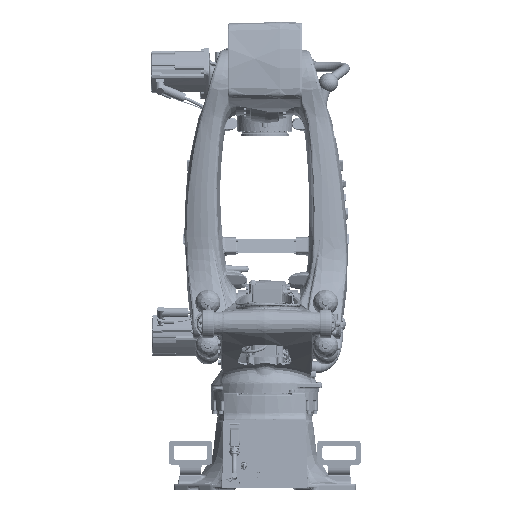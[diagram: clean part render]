
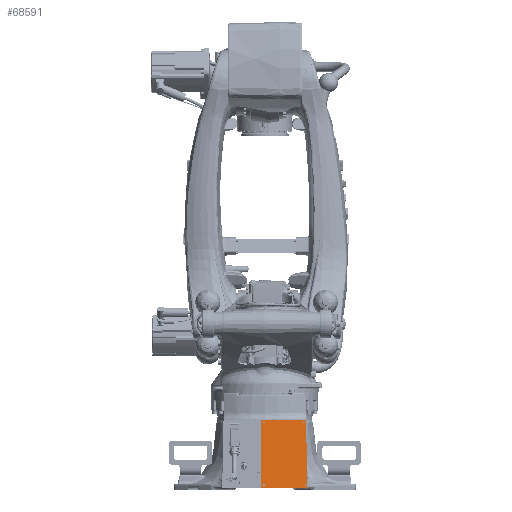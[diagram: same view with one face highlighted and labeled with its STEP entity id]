
A CAD part, left-side view. The second image highlights one B-rep face of the part: STEP entity #68591.
In plain terms, the highlighted planar face has unit normal (-0.996, 0, 0.087).
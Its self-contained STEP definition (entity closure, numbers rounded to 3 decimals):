
#52702=PLANE('',#300670);
#58543=FACE_BOUND('',#100527,.T.);
#58544=FACE_BOUND('',#100528,.T.);
#58545=FACE_BOUND('',#100529,.T.);
#58546=FACE_BOUND('',#100530,.T.);
#58547=FACE_BOUND('',#100531,.T.);
#68591=ADVANCED_FACE('',(#58543,#58544,#58545,#58546,#58547),#52702,.F.);
#100527=EDGE_LOOP('',(#155766));
#100528=EDGE_LOOP('',(#155767));
#100529=EDGE_LOOP('',(#155768));
#100530=EDGE_LOOP('',(#155769));
#100531=EDGE_LOOP('',(#155770,#155771,#155772,#155773,#155774,#155775,#155776,
#155777));
#155766=ORIENTED_EDGE('',*,*,#234185,.F.);
#155767=ORIENTED_EDGE('',*,*,#234186,.F.);
#155768=ORIENTED_EDGE('',*,*,#234187,.F.);
#155769=ORIENTED_EDGE('',*,*,#234188,.F.);
#155770=ORIENTED_EDGE('',*,*,#234166,.F.);
#155771=ORIENTED_EDGE('',*,*,#234163,.F.);
#155772=ORIENTED_EDGE('',*,*,#234184,.F.);
#155773=ORIENTED_EDGE('',*,*,#234181,.F.);
#155774=ORIENTED_EDGE('',*,*,#234178,.F.);
#155775=ORIENTED_EDGE('',*,*,#234175,.F.);
#155776=ORIENTED_EDGE('',*,*,#234172,.F.);
#155777=ORIENTED_EDGE('',*,*,#234169,.F.);
#205921=VERTEX_POINT('',#595355);
#205922=VERTEX_POINT('',#595357);
#205924=VERTEX_POINT('',#595363);
#205926=VERTEX_POINT('',#595369);
#205928=VERTEX_POINT('',#595375);
#205930=VERTEX_POINT('',#595381);
#205932=VERTEX_POINT('',#595387);
#205934=VERTEX_POINT('',#595393);
#205935=VERTEX_POINT('',#595400);
#205936=VERTEX_POINT('',#595402);
#205937=VERTEX_POINT('',#595404);
#205938=VERTEX_POINT('',#595406);
#234163=EDGE_CURVE('',#205921,#205922,#276479,.T.);
#234166=EDGE_CURVE('',#205922,#205924,#258963,.T.);
#234169=EDGE_CURVE('',#205924,#205926,#276483,.T.);
#234172=EDGE_CURVE('',#205926,#205928,#258965,.T.);
#234175=EDGE_CURVE('',#205928,#205930,#276487,.T.);
#234178=EDGE_CURVE('',#205930,#205932,#258967,.T.);
#234181=EDGE_CURVE('',#205932,#205934,#276491,.T.);
#234184=EDGE_CURVE('',#205934,#205921,#258969,.T.);
#234185=EDGE_CURVE('',#205935,#205935,#258970,.T.);
#234186=EDGE_CURVE('',#205936,#205936,#258971,.T.);
#234187=EDGE_CURVE('',#205937,#205937,#258972,.T.);
#234188=EDGE_CURVE('',#205938,#205938,#258973,.T.);
#258963=CIRCLE('',#300652,5.);
#258965=CIRCLE('',#300656,5.);
#258967=CIRCLE('',#300660,5.);
#258969=CIRCLE('',#300664,5.);
#258970=CIRCLE('',#300666,5.);
#258971=CIRCLE('',#300667,5.);
#258972=CIRCLE('',#300668,5.);
#258973=CIRCLE('',#300669,5.);
#276479=LINE('',#595356,#285549);
#276483=LINE('',#595368,#285553);
#276487=LINE('',#595380,#285557);
#276491=LINE('',#595392,#285561);
#285549=VECTOR('',#337591,1.);
#285553=VECTOR('',#337603,1.);
#285557=VECTOR('',#337615,1.);
#285561=VECTOR('',#337627,1.);
#300652=AXIS2_PLACEMENT_3D('',#595362,#337597,#337598);
#300656=AXIS2_PLACEMENT_3D('',#595374,#337609,#337610);
#300660=AXIS2_PLACEMENT_3D('',#595386,#337621,#337622);
#300664=AXIS2_PLACEMENT_3D('',#595397,#337633,#337634);
#300666=AXIS2_PLACEMENT_3D('',#595399,#337637,#337638);
#300667=AXIS2_PLACEMENT_3D('',#595401,#337639,#337640);
#300668=AXIS2_PLACEMENT_3D('',#595403,#337641,#337642);
#300669=AXIS2_PLACEMENT_3D('',#595405,#337643,#337644);
#300670=AXIS2_PLACEMENT_3D('',#595407,#337645,#337646);
#337591=DIRECTION('',(0.,1.,0.));
#337597=DIRECTION('',(0.996,0.,-0.087));
#337598=DIRECTION('',(0.,1.,0.));
#337603=DIRECTION('',(0.087,0.,0.996));
#337609=DIRECTION('',(0.996,0.,-0.087));
#337610=DIRECTION('',(0.,1.,0.));
#337615=DIRECTION('',(0.,-1.,0.));
#337621=DIRECTION('',(0.996,0.,-0.087));
#337622=DIRECTION('',(0.,1.,0.));
#337627=DIRECTION('',(-0.087,-0.017,-0.996));
#337633=DIRECTION('',(0.996,0.,-0.087));
#337634=DIRECTION('',(0.,1.,0.));
#337637=DIRECTION('',(-0.996,0.,0.087));
#337638=DIRECTION('',(-0.087,0.,-0.996));
#337639=DIRECTION('',(-0.996,0.,0.087));
#337640=DIRECTION('',(-0.087,0.,-0.996));
#337641=DIRECTION('',(-0.996,0.,0.087));
#337642=DIRECTION('',(-0.087,0.,-0.996));
#337643=DIRECTION('',(-0.996,0.,0.087));
#337644=DIRECTION('',(-0.087,0.,-0.996));
#337645=DIRECTION('',(0.996,0.,-0.087));
#337646=DIRECTION('',(-0.087,0.,-0.996));
#595355=CARTESIAN_POINT('',(-498.47,-215.237,10.76));
#595356=CARTESIAN_POINT('',(-498.47,-215.237,10.76));
#595357=CARTESIAN_POINT('',(-498.47,14.675,10.76));
#595362=CARTESIAN_POINT('',(-498.034,14.675,15.741));
#595363=CARTESIAN_POINT('',(-498.034,19.675,15.741));
#595368=CARTESIAN_POINT('',(-498.034,19.675,15.741));
#595369=CARTESIAN_POINT('',(-468.314,19.675,355.443));
#595374=CARTESIAN_POINT('',(-468.314,14.675,355.443));
#595375=CARTESIAN_POINT('',(-467.878,14.675,360.424));
#595380=CARTESIAN_POINT('',(-467.878,14.675,360.424));
#595381=CARTESIAN_POINT('',(-467.878,-209.285,360.424));
#595386=CARTESIAN_POINT('',(-468.314,-209.285,355.443));
#595387=CARTESIAN_POINT('',(-468.306,-214.284,355.53));
#595392=CARTESIAN_POINT('',(-468.306,-214.284,355.53));
#595393=CARTESIAN_POINT('',(-498.027,-220.237,15.827));
#595397=CARTESIAN_POINT('',(-498.034,-215.237,15.741));
#595399=CARTESIAN_POINT('',(-468.942,4.975,348.27));
#595400=CARTESIAN_POINT('',(-469.377,4.975,343.289));
#595401=CARTESIAN_POINT('',(-468.942,-205.025,348.27));
#595402=CARTESIAN_POINT('',(-469.377,-205.025,343.289));
#595403=CARTESIAN_POINT('',(-497.354,-211.025,23.511));
#595404=CARTESIAN_POINT('',(-497.79,-211.025,18.53));
#595405=CARTESIAN_POINT('',(-497.354,4.975,23.511));
#595406=CARTESIAN_POINT('',(-497.79,4.975,18.53));
#595407=CARTESIAN_POINT('',(-498.034,14.675,15.741));
